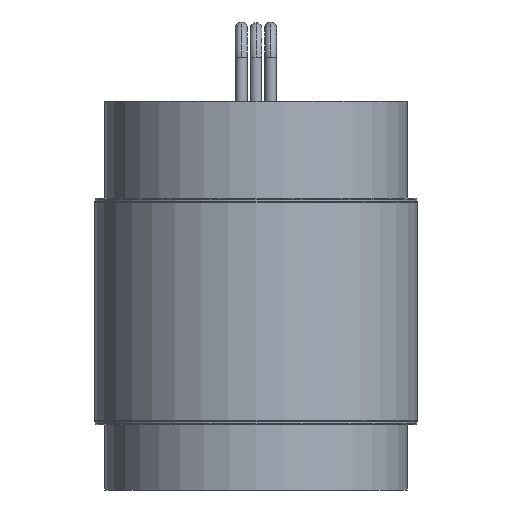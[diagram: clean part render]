
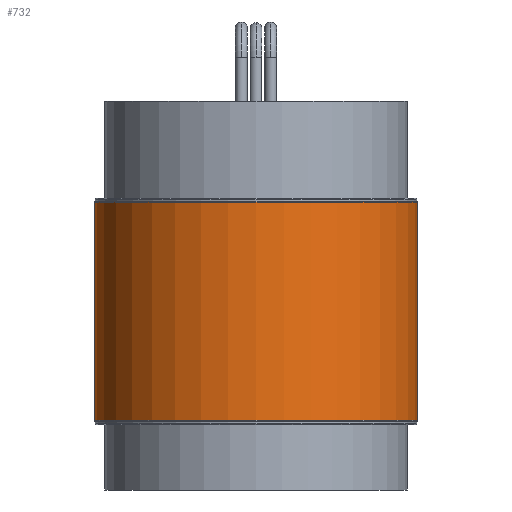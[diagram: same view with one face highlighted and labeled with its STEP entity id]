
A CAD part, front view. The second image highlights one B-rep face of the part: STEP entity #732.
In plain terms, the highlighted cylindrical face has radius 27.927 mm (diameter 55.855 mm), a partial arc.
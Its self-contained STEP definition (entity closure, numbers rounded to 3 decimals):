
#13 = DIRECTION ( 'NONE',  ( 0., 0., -1. ) ) ;
#20 = CIRCLE ( 'NONE', #1414, 27.927 ) ;
#82 = DIRECTION ( 'NONE',  ( -1., 0., 0. ) ) ;
#134 = EDGE_CURVE ( 'NONE', #417, #1678, #1700, .T. ) ;
#265 = DIRECTION ( 'NONE',  ( 0., 0., 1. ) ) ;
#403 = DIRECTION ( 'NONE',  ( 0., 0., -1. ) ) ;
#417 = VERTEX_POINT ( 'NONE', #1164 ) ;
#424 = ORIENTED_EDGE ( 'NONE', *, *, #2025, .T. ) ;
#458 = VECTOR ( 'NONE', #13, 1000. ) ;
#682 = ORIENTED_EDGE ( 'NONE', *, *, #134, .F. ) ;
#693 = CARTESIAN_POINT ( 'NONE',  ( 27.927, 0., 18.847 ) ) ;
#732 = ADVANCED_FACE ( 'NONE', ( #970 ), #1465, .T. ) ;
#757 = VERTEX_POINT ( 'NONE', #1660 ) ;
#970 = FACE_OUTER_BOUND ( 'NONE', #1448, .T. ) ;
#1025 = LINE ( 'NONE', #1816, #1058 ) ;
#1058 = VECTOR ( 'NONE', #403, 1000. ) ;
#1164 = CARTESIAN_POINT ( 'NONE',  ( -27.927, 0., 18.847 ) ) ;
#1198 = CARTESIAN_POINT ( 'NONE',  ( -27.927, 0., -18.847 ) ) ;
#1223 = LINE ( 'NONE', #1765, #458 ) ;
#1292 = DIRECTION ( 'NONE',  ( 1., 0., 0. ) ) ;
#1414 = AXIS2_PLACEMENT_3D ( 'NONE', #1672, #265, #1476 ) ;
#1448 = EDGE_LOOP ( 'NONE', ( #1881, #682, #1758, #424 ) ) ;
#1465 = CYLINDRICAL_SURFACE ( 'NONE', #1677, 27.927 ) ;
#1467 = DIRECTION ( 'NONE',  ( 0., 0., -1. ) ) ;
#1476 = DIRECTION ( 'NONE',  ( 1., 0., 0. ) ) ;
#1477 = CARTESIAN_POINT ( 'NONE',  ( 0., 0., 18.847 ) ) ;
#1480 = CARTESIAN_POINT ( 'NONE',  ( 0., 0., 18.847 ) ) ;
#1660 = CARTESIAN_POINT ( 'NONE',  ( 27.927, 0., -18.847 ) ) ;
#1672 = CARTESIAN_POINT ( 'NONE',  ( 0., 0., -18.847 ) ) ;
#1677 = AXIS2_PLACEMENT_3D ( 'NONE', #1477, #1467, #82 ) ;
#1678 = VERTEX_POINT ( 'NONE', #693 ) ;
#1690 = EDGE_CURVE ( 'NONE', #417, #2185, #1223, .T. ) ;
#1700 = CIRCLE ( 'NONE', #1821, 27.927 ) ;
#1758 = ORIENTED_EDGE ( 'NONE', *, *, #1690, .T. ) ;
#1765 = CARTESIAN_POINT ( 'NONE',  ( -27.927, 0., 18.847 ) ) ;
#1816 = CARTESIAN_POINT ( 'NONE',  ( 27.927, 0., 18.847 ) ) ;
#1821 = AXIS2_PLACEMENT_3D ( 'NONE', #1480, #2202, #1292 ) ;
#1881 = ORIENTED_EDGE ( 'NONE', *, *, #1887, .F. ) ;
#1887 = EDGE_CURVE ( 'NONE', #1678, #757, #1025, .T. ) ;
#2025 = EDGE_CURVE ( 'NONE', #2185, #757, #20, .T. ) ;
#2185 = VERTEX_POINT ( 'NONE', #1198 ) ;
#2202 = DIRECTION ( 'NONE',  ( 0., 0., 1. ) ) ;
